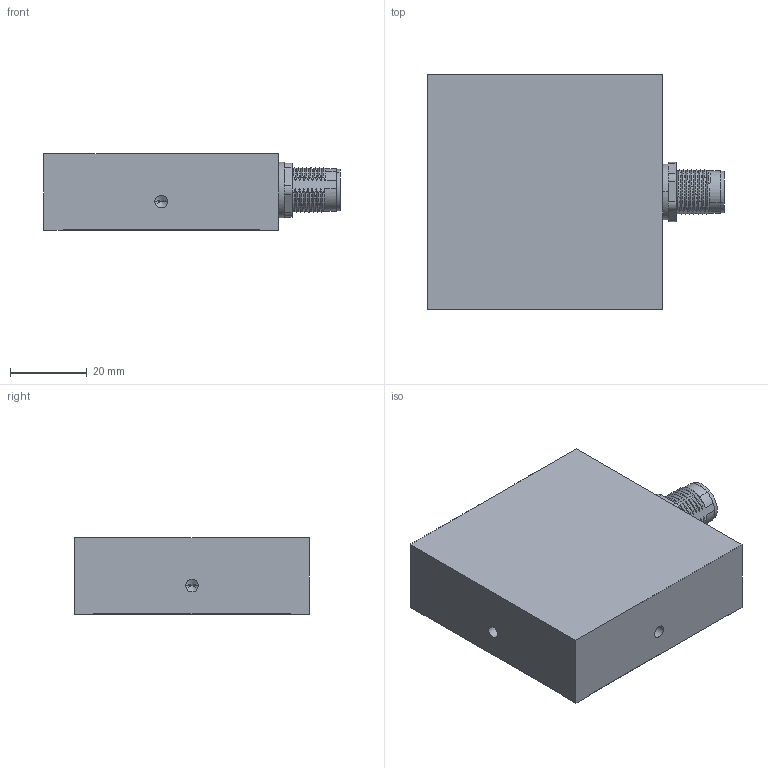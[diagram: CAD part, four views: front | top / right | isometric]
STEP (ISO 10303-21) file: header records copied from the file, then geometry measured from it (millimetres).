
FILE_DESCRIPTION (( 'STEP AP214' ), '1' );
FILE_NAME ('SBACK II 50x50.STEP', '2013-03-07T10:22:55', ( ' ' ), ( '' ), 'SwSTEP 2.0', 'SolidWorks 2009', '' );
FILE_SCHEMA (( 'AUTOMOTIVE_DESIGN' ));
Length unit declared in the file: millimetre
Products named in the file (1): SBACK II 50x50
Bounding box: 77 x 61 x 20 mm (x, y, z)
Volume: 35593.3 mm3; surface area: 27081.2 mm2
Topology: 3 solids, 20 shells, 525 faces, 1259 edges, 757 vertices
Faces by surface type: cylinder 198, plane 165, cone 106, bspline 48, sphere 8
Entity records: 38545 total; most frequent: CARTESIAN_POINT 21432, ORIENTED_EDGE 2394, DIRECTION 2370, EDGE_CURVE 1197, AXIS2_PLACEMENT_3D 891, VERTEX_POINT 749, VECTOR 588, LINE 588
